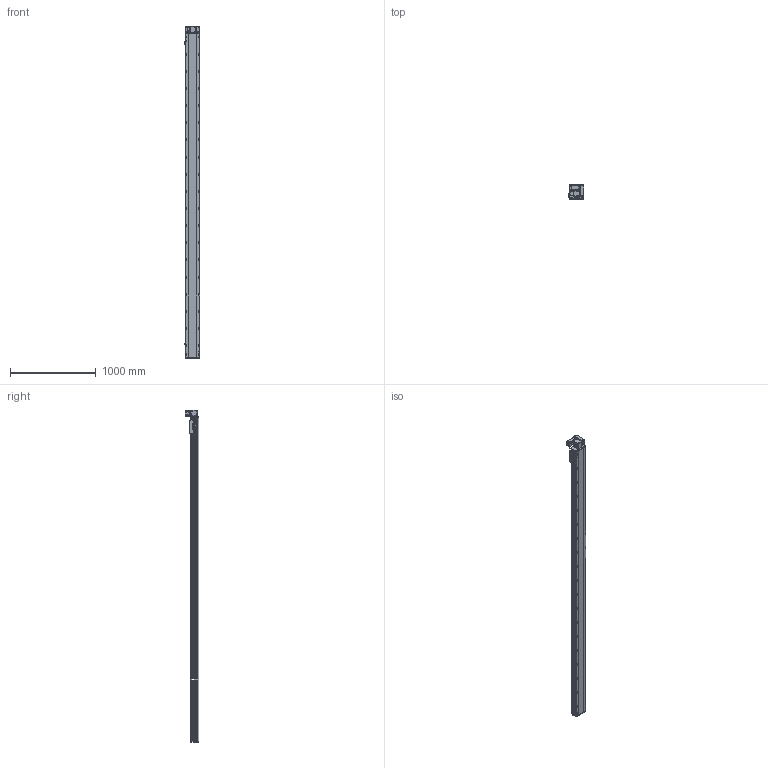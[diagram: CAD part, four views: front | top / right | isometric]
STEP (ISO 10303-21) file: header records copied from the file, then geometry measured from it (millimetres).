
FILE_DESCRIPTION (( 'STEP AP214' ), '1' );
FILE_NAME ('RTB17S-XX-3500-RW-M40-C4.STEP', '2025-12-11T09:21:30', ( '' ), ( '' ), 'SwSTEP 2.0', 'SolidWorks 2018', '' );
FILE_SCHEMA (( 'AUTOMOTIVE_DESIGN' ));
Length unit declared in the file: millimetre
Products named in the file (14): RTB14-L-008-M20--萇儂啣^RTB17S-RW-々湍釱蚾饜-400W_RTB17S-XX-XX-RW-M40-C4; RMP17S-L-014-T20--々湍釱^RTB17S-RW-々湍釱蚾饜-400W_RTB17S-XX-XX-RW-M40-C4; RTB17S-RW-々湍釱蚾饜-400W^RTB17S-XX-XX-RW-M40-C4; OMRON EE-SX672 传感器^RTB17S-XX-XX-RW-M40-C4; RTB17S-L-004佪裝蹟譫蟀諉釱^RTB17S-XX-XX-RW-M40-C4; RTH13-BL-012覜茼え俋离^RTB17S-XX-XX-RW-M40-C4; 400W侜督萇儂^RTB17S-XX-XX-RW-M40-C4; RTB14-L-005P--轴承塑胶压盖^RTB17S-RW-皮带座装配-400W_RTB17S-XX-XX-RW-M40-C4; RTB14-L-017P^RTB17S-RW-々湍釱蚾饜-400W_RTB17S-XX-XX-RW-M40-C4; RTB17S-L-001耜醱啣^RTB17S-XX-XX-RW-M40-C4; RTB14-L-018P^RTB17S-RW-々湍釱蚾饜-400W_RTB17S-XX-XX-RW-M40-C4; RTB17-R-011菁釱^RTB17S-XX-XX-RW-M40-C4; RTB17S-XX-3500-RW-M40-C4; RTB17S-L-007奻裔^RTB17S-XX-XX-RW-M40-C4
Assembly tree (16 placements, depth 3):
  RTB17S-XX-3500-RW-M40-C4
    RTB17-R-011菁釱^RTB17S-XX-XX-RW-M40-C4
    RTB17S-L-007奻裔^RTB17S-XX-XX-RW-M40-C4
    OMRON EE-SX672 传感器^RTB17S-XX-XX-RW-M40-C4  x3
    RTB17S-L-001耜醱啣^RTB17S-XX-XX-RW-M40-C4
    400W侜督萇儂^RTB17S-XX-XX-RW-M40-C4
    RTB17S-L-004佪裝蹟譫蟀諉釱^RTB17S-XX-XX-RW-M40-C4
    RTH13-BL-012覜茼え俋离^RTB17S-XX-XX-RW-M40-C4
    RTB17S-RW-々湍釱蚾饜-400W^RTB17S-XX-XX-RW-M40-C4
      RMP17S-L-014-T20--々湍釱^RTB17S-RW-々湍釱蚾饜-400W_RTB17S-XX-XX-RW-M40-C4
      RTB14-L-005P--轴承塑胶压盖^RTB17S-RW-皮带座装配-400W_RTB17S-XX-XX-RW-M40-C4
      RTB14-L-008-M20--萇儂啣^RTB17S-RW-々湍釱蚾饜-400W_RTB17S-XX-XX-RW-M40-C4
      RTB14-L-017P^RTB17S-RW-々湍釱蚾饜-400W_RTB17S-XX-XX-RW-M40-C4  x2
      RTB14-L-018P^RTB17S-RW-々湍釱蚾饜-400W_RTB17S-XX-XX-RW-M40-C4
Bounding box: 183.5 x 160.5 x 3872.5 mm (x, y, z)
Volume: 32759005.9 mm3; surface area: 3722192.6 mm2
Topology: 15 solids, 15 shells, 2413 faces, 6789 edges, 4437 vertices
Faces by surface type: plane 1094, cylinder 871, bspline 301, cone 139, torus 8
Entity records: 72617 total; most frequent: CARTESIAN_POINT 20794, ORIENTED_EDGE 10422, DIRECTION 9566, EDGE_CURVE 5211, VERTEX_POINT 3425, AXIS2_PLACEMENT_3D 3355, LINE 2856, VECTOR 2856
